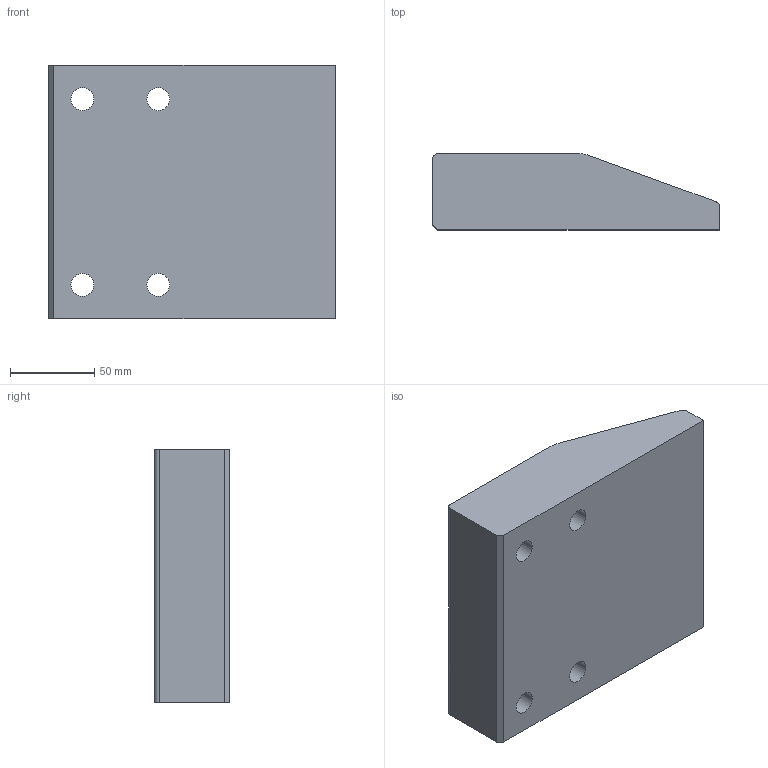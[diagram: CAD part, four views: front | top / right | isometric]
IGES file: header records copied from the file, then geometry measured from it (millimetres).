
Start section: Data from Parasolid IGES Translator 20.0.26, Copyright(c) 2006 Siemens P LM Software. All Rights Reserved.
Global section: file name: G228-01-15017045.igs; native system: By Siemens PLM Incorporated; preprocessor: XPlus GENERIC/IGES 20.0.26; author: Noname; organization: Noname; date: 20190710.094536; units: millimetre
Bounding box: 170 x 45 x 150 mm (x, y, z)
Surface area: 81944.4 mm2 (no closed solid volume)
Topology: 0 solids, 0 shells, 27 faces, 118 edges, 98 vertices
Faces by surface type: revolution 15, extrusion 12
